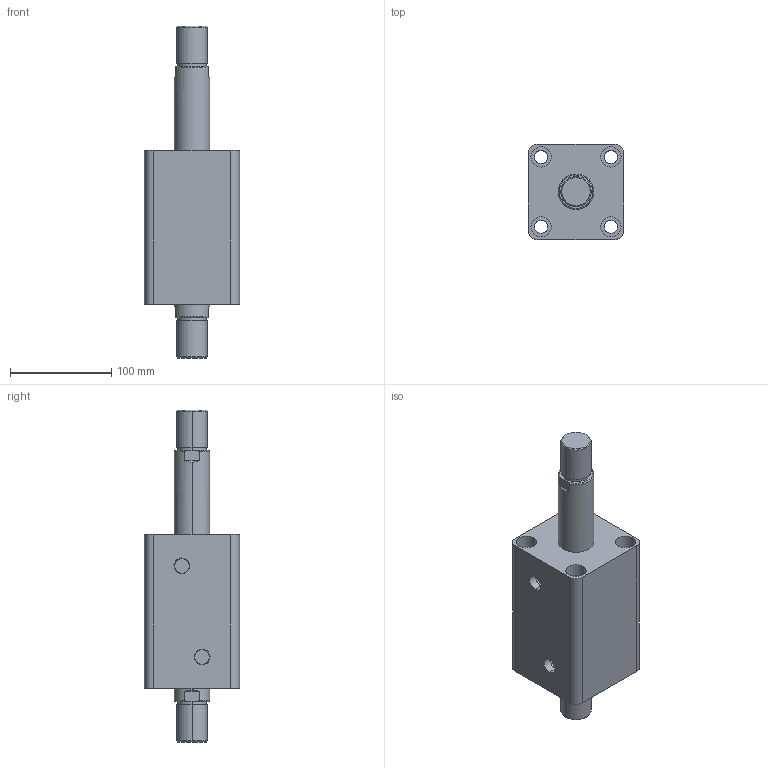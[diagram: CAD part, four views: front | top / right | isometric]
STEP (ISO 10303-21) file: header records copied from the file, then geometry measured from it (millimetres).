
FILE_DESCRIPTION (( 'STEP AP203' ), '1' );
FILE_NAME ('HTB-SW63-70W.STEP', '2019-10-07T10:07:23', ( '微软用户' ), ( '微软中国' ), 'SwSTEP 2.0', 'SolidWorks 2012', '' );
FILE_SCHEMA (( 'CONFIG_CONTROL_DESIGN' ));
Length unit declared in the file: millimetre
Products named in the file (3): HTB-SW63-70掛极; HTB-SW63-70W; HTB-SW63-70W活塞杆
Assembly tree (2 placements, depth 2):
  HTB-SW63-70W
    HTB-SW63-70掛极
    HTB-SW63-70W活塞杆
Bounding box: 94 x 94 x 328 mm (x, y, z)
Volume: 1225971.9 mm3; surface area: 168998.8 mm2
Topology: 2 solids, 2 shells, 108 faces, 240 edges, 156 vertices
Faces by surface type: cylinder 52, plane 36, torus 12, cone 8
Entity records: 3465 total; most frequent: CARTESIAN_POINT 645, DIRECTION 586, ORIENTED_EDGE 480, AXIS2_PLACEMENT_3D 249, EDGE_CURVE 240, VERTEX_POINT 156, EDGE_LOOP 138, CIRCLE 136
